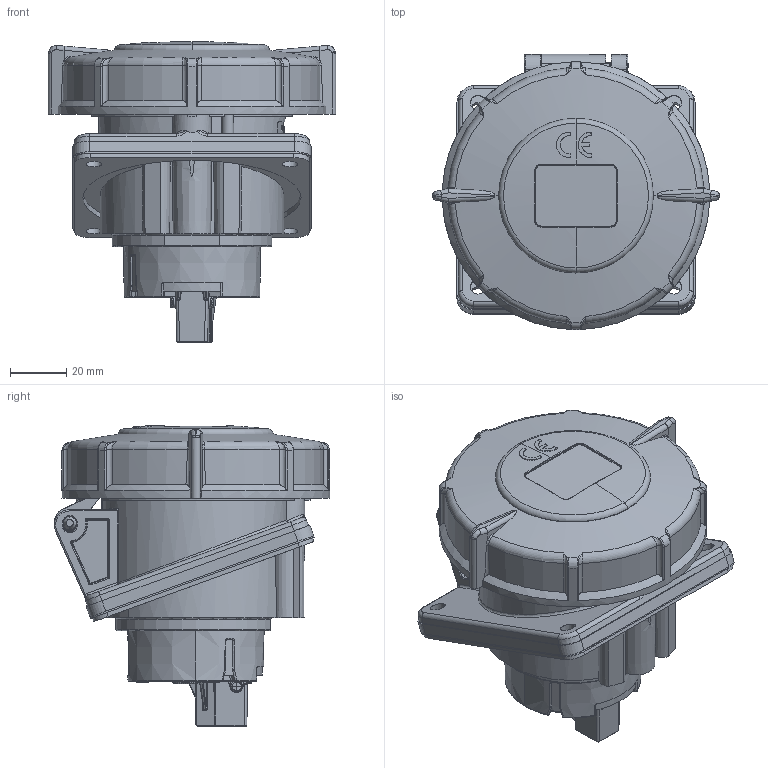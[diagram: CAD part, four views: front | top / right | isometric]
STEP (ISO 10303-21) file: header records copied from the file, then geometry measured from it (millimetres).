
FILE_DESCRIPTION((''),'2;1');
FILE_NAME('1113638_ASM_SW0001','2017-11-03T',('gisse'),('MENNEKES'),'PRO/ENGINEER BY PARAMETRIC TECHNOLOGY CORPORATION, 2015440','PRO/ENGINEER BY PARAMETRIC TECHNOLOGY CORPORATION, 2015440','');
FILE_SCHEMA(('AUTOMOTIVE_DESIGN { 1 0 10303 214 1 1 1 1 }'));
Products named in the file (1): 1113638_ASM_SW0001
Bounding box: 102.6 x 98.29 x 107.73 mm (x, y, z)
Volume: 389008.7 mm3; surface area: 50844.5 mm2
Topology: 1 solids, 1 shells, 2085 faces, 5542 edges, 3526 vertices
Faces by surface type: plane 1279, cylinder 341, bspline 265, torus 80, cone 73, sphere 43, extrusion 4
Entity records: 101845 total; most frequent: CARTESIAN_POINT 28577, ORIENTED_EDGE 11068, DIRECTION 8651, EDGE_CURVE 5534, FILL_AREA_STYLE_COLOUR 4042, FILL_AREA_STYLE 4042, SURFACE_STYLE_FILL_AREA 4042, SURFACE_SIDE_STYLE 4042
